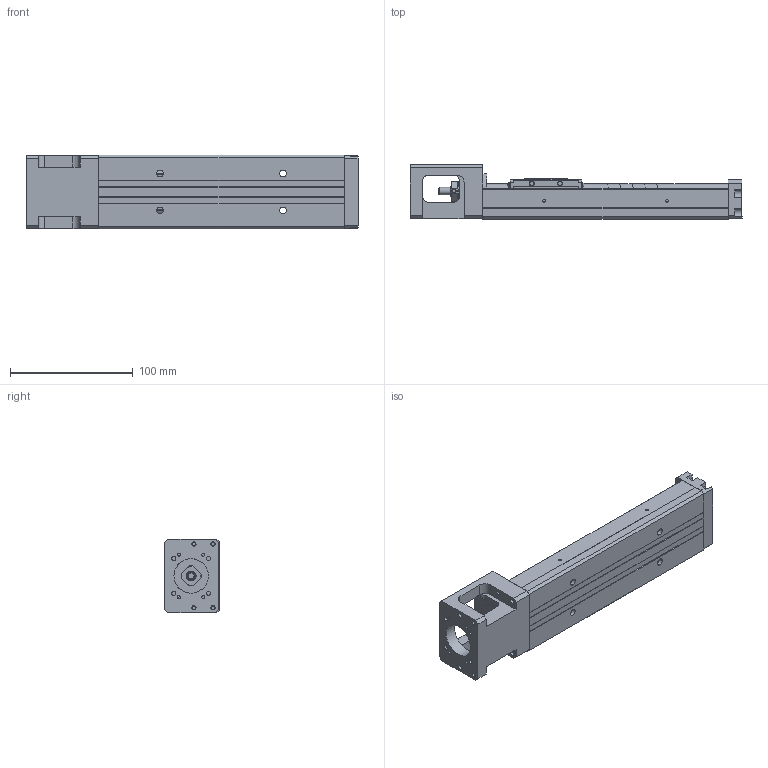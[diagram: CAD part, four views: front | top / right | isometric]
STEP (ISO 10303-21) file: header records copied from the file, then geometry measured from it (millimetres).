
FILE_DESCRIPTION(/* description */ (''),/* implementation_level */ '2;1');
FILE_NAME(/* name */ '33S-200low.stp',/* time_stamp */ '2018-02-12T11:21:11+08:00',/* author */ (''),/* organization */ (''),/* preprocessor_version */ 'ST-DEVELOPER v11',/* originating_system */ 'SIEMENS UGS NX 6.0',/* authorisation */ '');
FILE_SCHEMA (('AUTOMOTIVE_DESIGN { 1 0 10303 214 1 1 1 1 }'));
Length unit declared in the file: millimetre
Products named in the file (1): 3.069
Bounding box: 270 x 44.45 x 60 mm (x, y, z)
Volume: 331450.5 mm3; surface area: 94830.4 mm2
Topology: 5 solids, 10 shells, 583 faces, 1502 edges, 986 vertices
Faces by surface type: plane 345, cylinder 157, bspline 31, extrusion 21, cone 20, torus 7, revolution 2
Full cylindrical faces by diameter (mm): 1.6 x1, 1.65 x4, 2.15 x2, 2.42 x4, 2.45 x2, 2.5 x8, 3.2 x4, 3.3 x4, 3.4 x4, 3.5 x10, 3.969 x1, 4 x4, 4.001 x1, 4.135 x2, 5.5 x4, 6 x5, 7.6 x1, 8 x5, 9.5 x4, 10.72 x3, 11.8 x2, 12 x6, 12.8 x1, 13 x2, 14 x1, 16 x4, 21.5 x1, 28 x1
Entity records: 33344 total; most frequent: CARTESIAN_POINT 15901, DIRECTION 2648, ORIENTED_EDGE 2644, EDGE_CURVE 1322, VERTEX_POINT 926, AXIS2_PLACEMENT_3D 911, VECTOR 824, EDGE_LOOP 804
